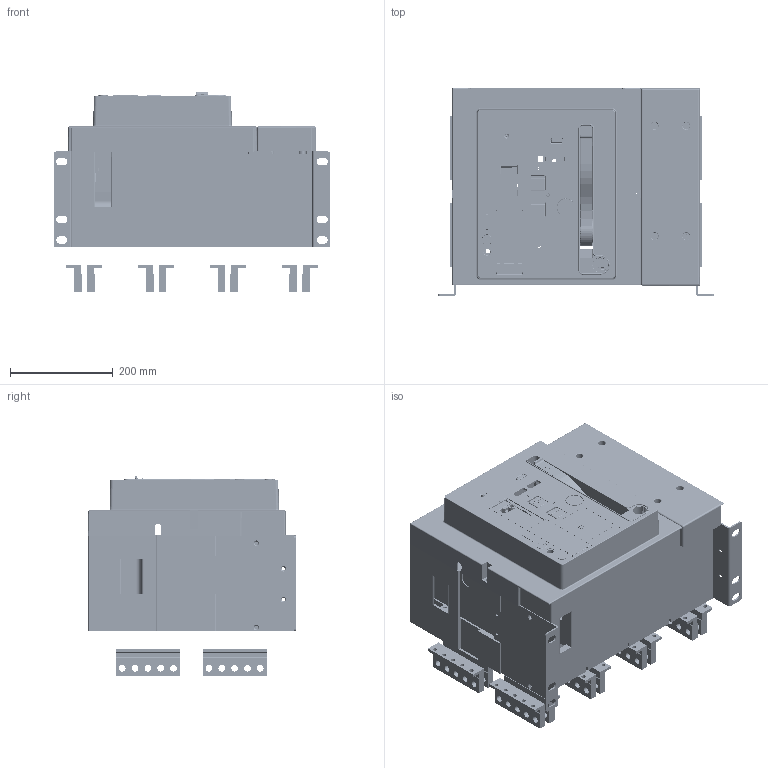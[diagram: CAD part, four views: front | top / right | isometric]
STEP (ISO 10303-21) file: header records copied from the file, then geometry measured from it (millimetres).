
FILE_DESCRIPTION((''),'2;1');
FILE_NAME('HG_18_B404V_FIX_ASM_ASM_ASM','2019-03-29T',('HHI'),(''),'PRO/ENGINEER BY PARAMETRIC TECHNOLOGY CORPORATION, 2012453','PRO/ENGINEER BY PARAMETRIC TECHNOLOGY CORPORATION, 2012453','');
FILE_SCHEMA(('CONFIG_CONTROL_DESIGN'));
Products named in the file (27): PRT0554; PRT0555; PRT0556; PRT0557; PRT0558; PRT0559; PRT0560; ASM0090_ASM; PRT0561; PRT0562; PRT0563; ASM0091_ASM; PRT0564; PRT0565; ASM0089_ASM; PRT0566; ASM0002_ASM_ASM; PRT0567; PRT0568; ASM0001_ASM_ASM; PRT0569; B404V_FIX_ASM_3_ASM_ASM; PRT0570; PRT0571; PRT0572; ASM0088_ASM; HG_18_B404V_FIX_ASM_ASM_ASM
Assembly tree (44 placements, depth 8):
  HG_18_B404V_FIX_ASM_ASM_ASM
    ASM0088_ASM
      B404V_FIX_ASM_3_ASM_ASM
        ASM0001_ASM_ASM
          PRT0554
          PRT0555
          PRT0556  x4
          ASM0002_ASM_ASM
            ASM0089_ASM
              ASM0090_ASM
                PRT0557
                PRT0558
                PRT0559
                PRT0560
              ASM0091_ASM
                PRT0561
                PRT0562
                PRT0563
              PRT0564
              PRT0565
            PRT0566
          PRT0567
          PRT0568
        PRT0569  x16
      PRT0570
      PRT0571
      PRT0572
Bounding box: 539.4 x 405.08 x 389.63 mm (x, y, z)
Volume: 10355024.4 mm3; surface area: 3702280.2 mm2
Topology: 37 solids, 43 shells, 8267 faces, 23138 edges, 15074 vertices
Faces by surface type: plane 5017, cylinder 2524, torus 275, extrusion 139, sphere 118, cone 117, bspline 77
Entity records: 252453 total; most frequent: CARTESIAN_POINT 51480, ORIENTED_EDGE 42694, DIRECTION 40854, EDGE_CURVE 21355, VECTOR 15456, LINE 15317, VERTEX_POINT 13964, AXIS2_PLACEMENT_3D 12699
